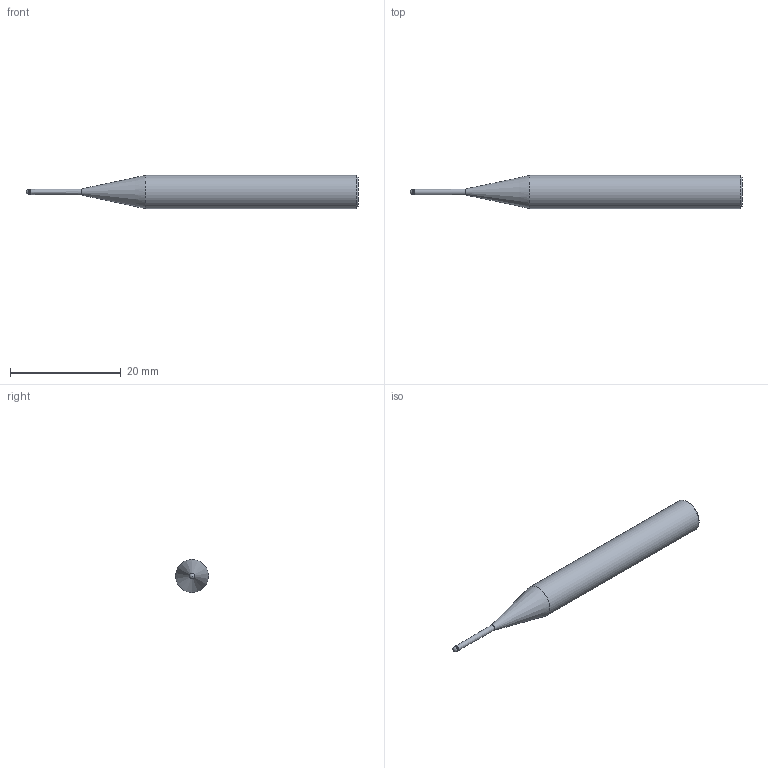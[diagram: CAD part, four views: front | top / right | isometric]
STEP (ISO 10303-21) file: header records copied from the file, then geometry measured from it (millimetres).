
FILE_DESCRIPTION(/* description */ (''),/* implementation_level */ '2;1');
FILE_NAME(/* name */ 'HGXPB2010-10-T0.4 0660.stp',/* time_stamp */ '2026-01-22T08:55:46+08:00',/* author */ (''),/* organization */ (''),/* preprocessor_version */ 'ST-DEVELOPER v16',/* originating_system */ 'SIEMENS PLM Software NX 10.0',/* authorisation */ '');
FILE_SCHEMA (('CONFIG_CONTROL_DESIGN'));
Length unit declared in the file: millimetre
Products named in the file (1): HGXPB2010-10-T0.4 0660_x_t
Bounding box: 60 x 6 x 6 mm (x, y, z)
Volume: 1225.7 mm3; surface area: 912.6 mm2
Topology: 1 solids, 1 shells, 9 faces, 17 edges, 10 vertices
Faces by surface type: cylinder 3, cone 3, plane 2, sphere 1
Full cylindrical faces by diameter (mm): 0.95 x1, 1 x1, 6 x1
Entity records: 258 total; most frequent: DIRECTION 36, CARTESIAN_POINT 26, AXIS2_PLACEMENT_3D 18, EDGE_LOOP 16, ORIENTED_EDGE 16, FACE_BOUND 14, ADVANCED_FACE 9, VERTEX_POINT 8
